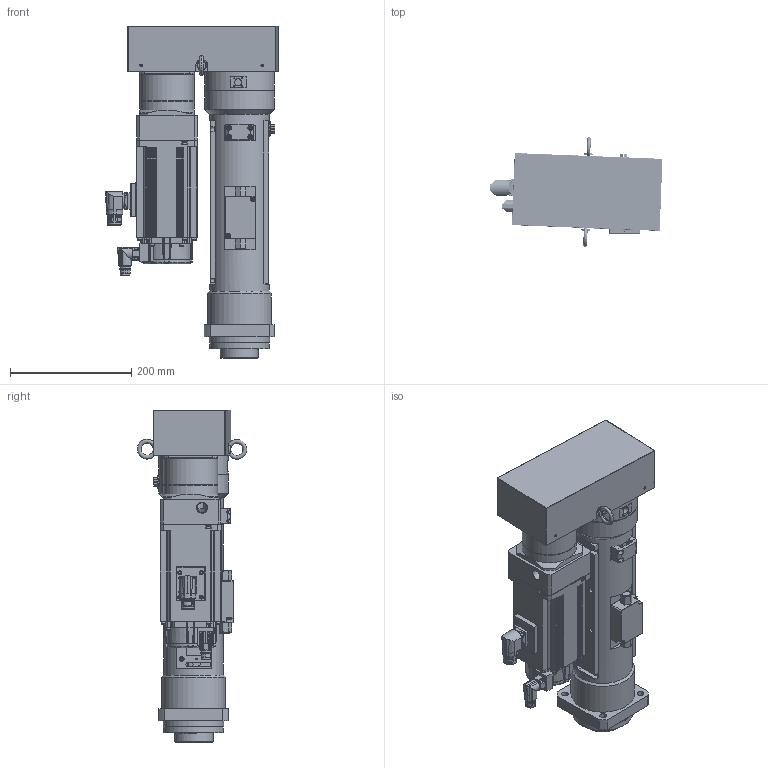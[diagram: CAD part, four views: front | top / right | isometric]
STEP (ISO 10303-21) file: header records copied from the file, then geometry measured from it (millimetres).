
FILE_DESCRIPTION( ('This file contains a STEP AP42 implementation' ,'as created by ZW3D STEP Interface translator.') ,'2;1' );
FILE_NAME( 'OACIS-DS-P020-200-200-A6V400_20.51.stp' ,'26 416.10 241', (''), ('ZWCAD Software Co.'), 'Version 1.0', 'ZW3D to STEP translator', '' );
FILE_SCHEMA(('AUTOMOTIVE_DESIGN { 1 0 10303 214 1 1 1 1 }'));
Length unit declared in the file: millimetre
Products named in the file (1): 0
Bounding box: 285.38 x 180.78 x 548 mm (x, y, z)
Volume: 6545292.5 mm3; surface area: 1141131.4 mm2
Topology: 45 solids, 49 shells, 2323 faces, 6023 edges, 4028 vertices
Faces by surface type: plane 1042, cylinder 871, cone 242, torus 90, bspline 58, sphere 20
Full cylindrical faces by diameter (mm): 1.25 x12, 1.6 x8, 2.232 x6, 2.459 x5, 2.75 x4, 2.8 x1, 3.2 x5, 3.3 x74, 4.2 x4, 4.3 x24, 4.5 x4, 5 x32, 5.5 x9, 6 x8, 6.5 x4, 6.6 x8, 6.647 x5, 6.8 x36, 7 x12, 8 x40, 8.4 x8, 8.5 x17, 9 x4, 11 x12, 12 x1, 13.4 x1, 15 x8, 15.5 x2, 15.54 x1, 16 x1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
Entity records: 79428 total; most frequent: CARTESIAN_POINT 18136, DIRECTION 12808, ORIENTED_EDGE 11786, EDGE_CURVE 5921, AXIS2_PLACEMENT_3D 4866, VERTEX_POINT 3958, VECTOR 3076, LINE 3076
